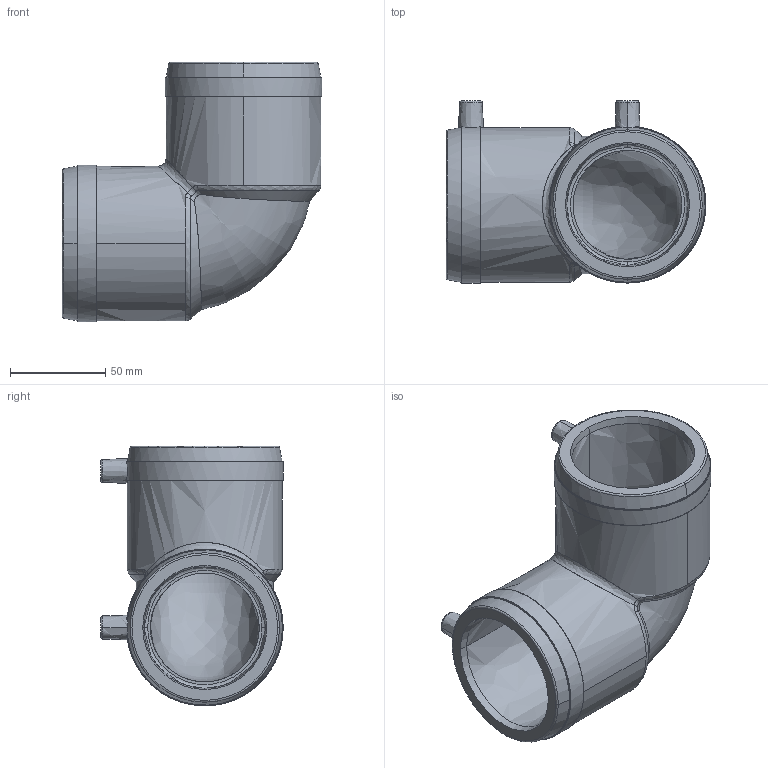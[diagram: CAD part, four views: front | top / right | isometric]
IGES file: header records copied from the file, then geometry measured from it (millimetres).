
Start section:  PTC IGES file: w90_d063_01.igs
Global section: file name: w90_d063_01.igs; native system: Pro/ENGINEER by Parametric Technology Corporation; preprocessor: 2011490; author: mtunjic; organization: Unknown; date: 20130812.093059; units: millimetre
Bounding box: 136.03 x 95.5 x 136.03 mm (x, y, z)
Surface area: 82697 mm2 (no closed solid volume)
Topology: 0 solids, 0 shells, 238 faces, 1174 edges, 1174 vertices
Faces by surface type: bspline 238
